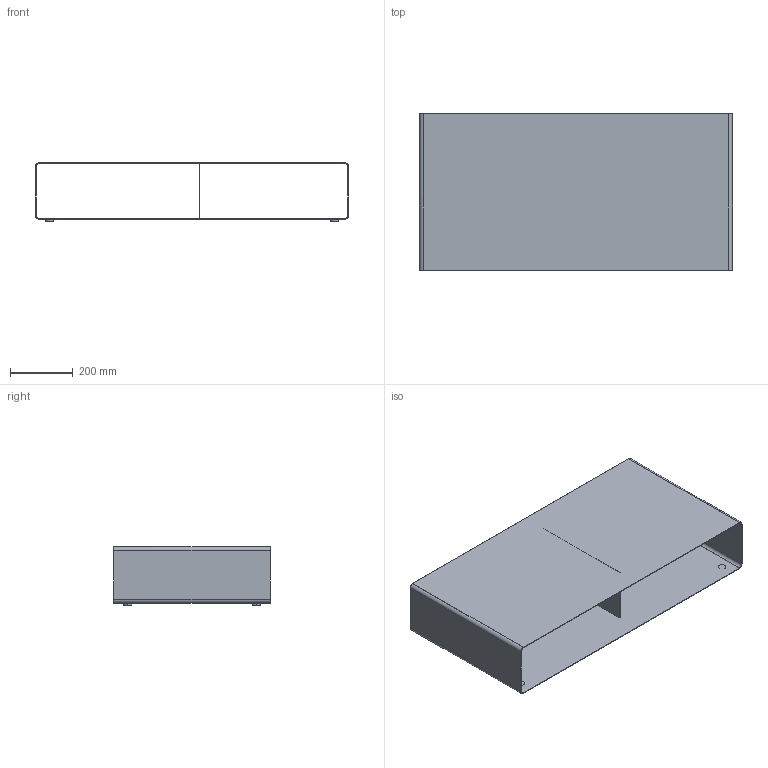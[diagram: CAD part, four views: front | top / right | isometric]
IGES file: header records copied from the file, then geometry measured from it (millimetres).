
Start section: Comment
Global section: file name: R200N.igs; native system:  By UGS Corp.; preprocessor: XPlus GENERIC/IGES 3.0; author: Author; organization: Title; date: 20151109.130451; units: inch
Bounding box: 1000 x 500 x 187 mm (x, y, z)
Surface area: 2467324.6 mm2 (no closed solid volume)
Topology: 0 solids, 0 shells, 34 faces, 168 edges, 168 vertices
Faces by surface type: bspline 34
